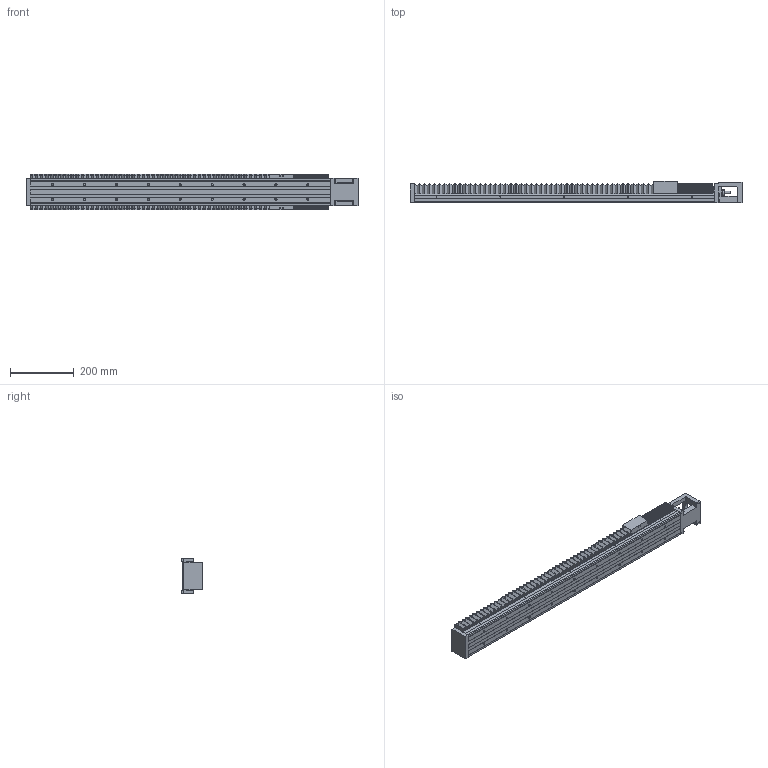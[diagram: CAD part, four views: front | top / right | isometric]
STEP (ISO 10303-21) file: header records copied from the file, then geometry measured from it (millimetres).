
FILE_DESCRIPTION( ( '' ), '1' );
FILE_NAME( '//partserver001.servicenet/client_exchange/iodir/jobs/output/wkb20112378_no5/STEP/kk8610p_940a1_f0b_2_03.stp', '2009-11-12T12:13:01', ( '' ), ( '' ), ' ', ' ', ' ' );
FILE_SCHEMA( ( 'CONFIG_CONTROL_DESIGN' ) );
Length unit declared in the file: millimetre
Products named in the file (6): 1; 2; 3; 4; 5; 6
Bounding box: 1040 x 68 x 112 mm (x, y, z)
Volume: 2147135.7 mm3; surface area: 1272791.7 mm2
Topology: 6 solids, 6 shells, 2980 faces, 8285 edges, 5312 vertices
Faces by surface type: plane 2588, cylinder 236, cone 148, torus 8
Entity records: 93343 total; most frequent: CARTESIAN_POINT 16779, ORIENTED_EDGE 16426, DIRECTION 14775, EDGE_CURVE 8213, LINE 7583, VECTOR 7583, VERTEX_POINT 5312, AXIS2_PLACEMENT_3D 3596
